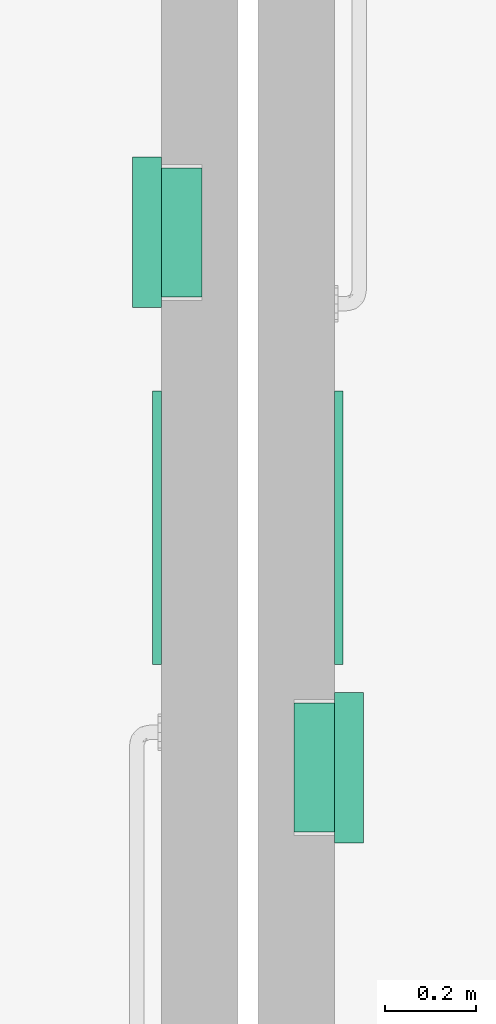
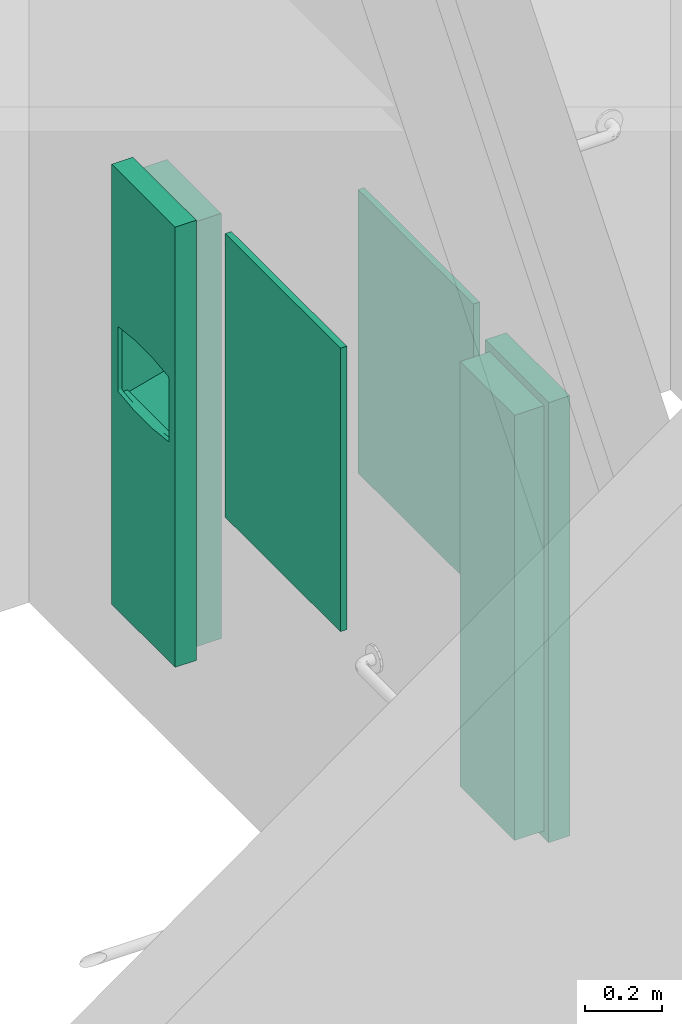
# One storey, part 36 of 45: 4 flow terminals.
"""IFC2X3 building model written with IfcOpenShell, lengths in metres."""

from ifc_helpers import new_model, entity, si_unit, converted_unit, frame, origin, origin_2d_with_axis, place, context, project, spatial, rectangle, extrude, face_set, surface_model, source, transform, mapped, type_object, type_shapes, element, save


model = new_model("IFC2X3")

# Units and contexts
model_context = context("Model", 3, precision=1e-09, world=origin())
plan_context = context("Plan", 3, precision=1e-09, world=origin())
ifc_project = project(units=[si_unit("LENGTHUNIT", "METRE"), si_unit("AREAUNIT", "SQUARE_METRE"), si_unit("VOLUMEUNIT", "CUBIC_METRE"), converted_unit("PLANEANGLEUNIT", "DEGREE", entity("IfcRatioMeasure", 0.01745329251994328), si_unit("PLANEANGLEUNIT", "RADIAN"), dimensions=[0, 0, 0, 0, 0, 0, 0]), si_unit("TIMEUNIT", "SECOND")], contexts=[model_context, plan_context])

# Site, building, storey, space
site_placement = place(None, origin())
site = spatial("IfcSite", under=ifc_project, at=site_placement, Name="Default", CompositionType="ELEMENT")
building_placement = place(site_placement, origin())
building = spatial("IfcBuilding", under=site, at=building_placement, CompositionType="ELEMENT")
storey_placement = place(building_placement, frame((0.0, 0.0, 4.570000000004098)))
storey = spatial("IfcBuildingStorey", under=building, at=storey_placement, Name="Second Floor", CompositionType="ELEMENT", Elevation=4.570000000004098)
space_1_placement = place(storey_placement, origin())
space_1 = spatial("IfcSpace", under=storey, at=space_1_placement, Name="2B5", CompositionType="ELEMENT", InteriorOrExteriorSpace="INTERNAL")

# Flow terminal
sanitary_terminal_type_1 = type_object("IfcSanitaryTerminalType", Name="Semi-Recessed", PredefinedType="NOTDEFINED")
shared_shape_1 = source(origin(), model_context, "Body", "SurfaceModel", [
    surface_model("IfcFaceBasedSurfaceModel", [(0.3047999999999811, 1.371600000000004, 0.006350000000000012), (0.02539999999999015, 1.371600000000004, 0.006350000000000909), (0.02539999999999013, 0.02540000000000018, 0.006350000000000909), (0.3047999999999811, 0.02540000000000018, 0.006350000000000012), (0.3047999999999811, 1.371600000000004, 0.0), (0.02539999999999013, 1.371600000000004, 0.0), (0.02539999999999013, 0.02540000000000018, 0.0), (0.3047999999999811, 0.02540000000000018, 0.0), (0.3047999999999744, 0.8683625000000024, 0.0314087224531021), (0.304799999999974, 0.8683625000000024, 0.0), (0.304799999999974, 1.371600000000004, 0.0), (0.3047999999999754, 1.371600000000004, 0.1396999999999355), (0.3047999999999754, 0.9274310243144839, 0.139699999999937), (0.3047999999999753, 0.9028355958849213, 0.1191121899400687), (0.304799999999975, 0.8840898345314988, 0.09308548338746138), (0.3047999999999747, 0.8723562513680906, 0.06323391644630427), (0.02539999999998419, 0.8683625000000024, 0.03140872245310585), (0.02539999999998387, 0.8683625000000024, 0.0), (0.02539999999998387, 1.371600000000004, 0.0), (0.02539999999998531, 1.371600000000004, 0.1396999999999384), (0.02539999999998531, 0.9274310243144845, 0.1396999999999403), (0.02539999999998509, 0.9028355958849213, 0.1191121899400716), (0.02539999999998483, 0.8840898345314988, 0.09308548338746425), (0.02539999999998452, 0.8723562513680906, 0.06323391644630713), (0.1650999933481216, 0.8971245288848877, 0.1125374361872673), (0.244423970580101, 0.8850007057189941, 0.0947267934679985), (0.3048000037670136, 0.8934627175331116, 0.1060988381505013), (0.225727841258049, 0.8897196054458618, 0.1024402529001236), (0.1240624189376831, 0.8936511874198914, 0.1080563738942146), (0.1443802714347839, 0.89626145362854, 0.1114614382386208), (0.02539999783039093, 0.8934627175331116, 0.1060988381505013), (0.2975995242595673, 0.8728225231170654, 0.06500939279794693), (0.2961554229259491, 0.8724397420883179, 0.06352298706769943), (0.08576729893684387, 0.8849983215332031, 0.09472260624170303), (0.05923719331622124, 0.8781034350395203, 0.0805450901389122), (0.06810294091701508, 0.8800443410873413, 0.08500713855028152), (0.02539999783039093, 0.8811564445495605, 0.08562259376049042), (0.03954862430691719, 0.8766331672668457, 0.07681932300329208), (0.04958875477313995, 0.8769928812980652, 0.07776296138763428), (0.02539999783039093, 0.8782230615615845, 0.07815969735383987), (0.03264534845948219, 0.875198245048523, 0.07281118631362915), (0.02539999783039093, 0.8767563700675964, 0.0744282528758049), (0.02539999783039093, 0.87602299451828, 0.07256253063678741), (0.2946777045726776, 0.8762261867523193, 0.07572414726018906), (0.3048000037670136, 0.8767563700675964, 0.0744282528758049), (0.3048000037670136, 0.8774896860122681, 0.07629397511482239), (0.2906513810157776, 0.8717893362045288, 0.0609215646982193), (0.3048000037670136, 0.871357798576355, 0.05527761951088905), (0.3048000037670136, 0.8718570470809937, 0.05925576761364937), (0.02539999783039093, 0.874556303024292, 0.06883108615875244), (0.03170676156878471, 0.8735430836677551, 0.0675705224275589), (0.03171554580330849, 0.8739543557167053, 0.06892137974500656), (0.104461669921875, 0.889717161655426, 0.1024366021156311), (0.02539999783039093, 0.8752896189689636, 0.07069680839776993), (0.03172433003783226, 0.8743656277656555, 0.07027223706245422), (0.03218483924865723, 0.8747819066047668, 0.07154171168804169), (0.185808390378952, 0.8962624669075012, 0.1114626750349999), (0.3048000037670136, 0.8703593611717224, 0.04732131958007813), (0.2280749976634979, 0.8709259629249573, 0.05697767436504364), (0.2061262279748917, 0.8936530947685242, 0.1080589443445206), (0.3048000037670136, 0.8752896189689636, 0.07069680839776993), (0.297547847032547, 0.8752022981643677, 0.07282306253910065), (0.2980738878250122, 0.8745774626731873, 0.0708826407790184), (0.2985999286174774, 0.8739525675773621, 0.06894221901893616), (0.3048000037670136, 0.874556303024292, 0.06883108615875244), (0.2709419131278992, 0.8781068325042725, 0.08055329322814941), (0.3048000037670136, 0.8811564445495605, 0.08562259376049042), (0.2620970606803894, 0.8800443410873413, 0.08500713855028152), (0.2805894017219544, 0.8769944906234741, 0.07776710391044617), (0.3048000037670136, 0.8782230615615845, 0.07815969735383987), (0.03435983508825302, 0.8722586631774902, 0.06284872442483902), (0.02539999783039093, 0.872106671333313, 0.06124484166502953), (0.0367727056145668, 0.8719081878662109, 0.06142202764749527), (0.2906513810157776, 0.8766331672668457, 0.07681932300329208), (0.02539999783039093, 0.8718570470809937, 0.05925576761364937), (0.3048000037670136, 0.8738229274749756, 0.06696536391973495), (0.2980997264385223, 0.8733875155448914, 0.06697580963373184), (0.3048000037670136, 0.872106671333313, 0.06124484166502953), (0.2947112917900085, 0.8720570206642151, 0.06203658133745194), (0.02539999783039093, 0.8738229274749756, 0.06696536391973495), (0.3048000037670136, 0.873089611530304, 0.06509964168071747), (0.02539999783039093, 0.8774896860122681, 0.07629397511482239), (0.03438528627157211, 0.8759323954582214, 0.07491400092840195), (0.03677724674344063, 0.8764464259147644, 0.07632055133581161), (0.03261014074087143, 0.8728178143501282, 0.0649920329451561), (0.02539999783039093, 0.8703593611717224, 0.04732131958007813), (0.1650999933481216, 0.8683624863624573, 0.03140872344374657), (0.03954862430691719, 0.8717893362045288, 0.0609215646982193), (0.1021250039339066, 0.8709259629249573, 0.05697767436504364), (0.02539999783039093, 0.871357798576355, 0.05527761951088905), (0.02539999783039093, 0.873089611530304, 0.06509964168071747), (0.2961127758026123, 0.8757142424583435, 0.07427360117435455), (0.3048000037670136, 0.87602299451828, 0.07256253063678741), (0.1650999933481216, 0.8701865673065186, 0.05300865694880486), (0.03954862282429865, 0.9617593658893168, 0.06092156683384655), (0.1650999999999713, 0.9617593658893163, 0.05300865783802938), (0.2906513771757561, 0.9617593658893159, 0.06092156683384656), (0.2927086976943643, 0.9617593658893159, 0.06119241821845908), (0.2946258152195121, 0.9617593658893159, 0.06198651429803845), (0.2962720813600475, 0.9617593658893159, 0.06324973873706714), (0.2975353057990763, 0.9617593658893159, 0.06489600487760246), (0.2983294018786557, 0.9617593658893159, 0.06681312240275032), (0.2986002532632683, 0.9617593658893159, 0.06887044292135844), (0.2983294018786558, 0.9617593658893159, 0.07092776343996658), (0.2975353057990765, 0.9617593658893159, 0.0728448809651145), (0.2962720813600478, 0.9617593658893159, 0.07449114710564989), (0.2946258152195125, 0.9617593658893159, 0.07575437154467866), (0.2927086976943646, 0.9617593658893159, 0.07654846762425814), (0.2906513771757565, 0.9617593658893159, 0.07681931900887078), (0.2806776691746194, 0.9617593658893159, 0.07775040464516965), (0.2710486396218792, 0.9617593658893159, 0.0805114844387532), (0.2620970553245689, 0.9617593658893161, 0.0850071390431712), (0.2316919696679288, 0.9617593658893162, 0.1002429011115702), (0.1989754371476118, 0.9617593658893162, 0.1095287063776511), (0.1651000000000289, 0.9617593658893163, 0.1125374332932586), (0.1312245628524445, 0.9617593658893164, 0.109528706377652), (0.09850803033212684, 0.9617593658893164, 0.1002429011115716), (0.06810294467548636, 0.9617593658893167, 0.08500713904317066), (0.05915136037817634, 0.9617593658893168, 0.08051148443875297), (0.04952233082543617, 0.9617593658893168, 0.07775040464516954), (0.03954862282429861, 0.9617593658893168, 0.07681931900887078), (0.03749130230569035, 0.9617593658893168, 0.0765484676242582), (0.03557418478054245, 0.9617593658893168, 0.07575437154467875), (0.03392791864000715, 0.9617593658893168, 0.07449114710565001), (0.03266469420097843, 0.9617593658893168, 0.07284488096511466), (0.03187059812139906, 0.9617593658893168, 0.07092776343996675), (0.03159974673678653, 0.9617593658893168, 0.06887044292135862), (0.03187059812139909, 0.9617593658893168, 0.06681312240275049), (0.03266469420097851, 0.9617593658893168, 0.0648960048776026), (0.03392791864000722, 0.9617593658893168, 0.06324973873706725), (0.03557418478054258, 0.9617593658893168, 0.06198651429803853), (0.03749130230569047, 0.9617593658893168, 0.06119241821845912), (0.3302000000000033, 1.397000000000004, 0.1523999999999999), (0.0, 1.397000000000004, 0.152400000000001), (0.0, 0.0, 0.152400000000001), (0.3302000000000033, 0.0, 0.1523999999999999), (0.03175000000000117, 0.7016793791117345, 0.1524000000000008), (0.03175000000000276, 0.8960819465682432, 0.1524000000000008), (0.03192255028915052, 0.8975521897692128, 0.1524000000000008), (0.03243082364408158, 0.8989425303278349, 0.1524000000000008), (0.03324719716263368, 0.9001774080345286, 0.1524000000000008), (0.03432730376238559, 0.9011897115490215, 0.1524000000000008), (0.03561244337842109, 0.9019244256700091, 0.1524000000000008), (0.03703277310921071, 0.9023416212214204, 0.1524000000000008), (0.1222300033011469, 0.9119737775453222, 0.1524000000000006), (0.2079699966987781, 0.911973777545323, 0.1524000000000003), (0.2931672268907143, 0.902341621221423, 0.1524), (0.2945875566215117, 0.9019244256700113, 0.1524), (0.2958726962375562, 0.9011897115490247, 0.1524), (0.2969528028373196, 0.9001774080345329, 0.1524), (0.297769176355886, 0.8989425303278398, 0.1524), (0.2982774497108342, 0.8975521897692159, 0.1524), (0.2984500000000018, 0.8960819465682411, 0.1524), (0.2984500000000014, 0.7016793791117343, 0.1524), (0.2982774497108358, 0.7002091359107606, 0.1524), (0.2977691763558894, 0.6988187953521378, 0.1524), (0.2969528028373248, 0.697583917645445, 0.1524), (0.2958726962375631, 0.6965716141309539, 0.1524), (0.29458755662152, 0.6958369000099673, 0.1524), (0.2931672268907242, 0.6954197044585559, 0.1524), (0.2079699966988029, 0.6857875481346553, 0.1524000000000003), (0.1222300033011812, 0.6857875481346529, 0.1524000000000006), (0.03703277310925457, 0.6954197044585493, 0.1524000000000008), (0.03561244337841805, 0.6958369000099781, 0.1524000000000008), (0.0343273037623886, 0.6965716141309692, 0.1524000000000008), (0.03324719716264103, 0.6975839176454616, 0.1524000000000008), (0.03243082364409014, 0.698818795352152, 0.1524000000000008), (0.03192255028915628, 0.7002091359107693, 0.1524000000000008), (0.3063874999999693, 1.373187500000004, 0.0), (0.02381249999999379, 1.373187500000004, 0.0), (0.02381249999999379, 0.02381250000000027, 0.0), (0.3063874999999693, 0.02381250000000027, 0.0), (0.3047999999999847, 1.371600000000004, 0.0), (0.3047999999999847, 0.02540000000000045, 0.0), (0.02539999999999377, 0.02540000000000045, 0.0), (0.02539999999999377, 1.371600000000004, 0.0), (0.304799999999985, 1.371600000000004, 0.08889999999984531), (0.3047999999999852, 1.371600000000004, 0.1396999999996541), (0.3047999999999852, 0.02540000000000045, 0.1396999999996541), (0.304799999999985, 0.02540000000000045, 0.08889999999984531), (0.02539999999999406, 0.02540000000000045, 0.08889999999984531), (0.02539999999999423, 0.02540000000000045, 0.139699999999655), (0.02539999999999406, 1.371600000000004, 0.08889999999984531), (0.02539999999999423, 1.371600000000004, 0.139699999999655), (0.02381249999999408, 1.373187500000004, 0.08889999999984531), (0.3063874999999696, 1.373187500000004, 0.08889999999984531), (0.02381249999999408, 0.02381250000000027, 0.08889999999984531), (0.3063874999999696, 0.02381250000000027, 0.08889999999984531), (0.3302000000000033, 1.397000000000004, 0.08889999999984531), (0.0, 1.397000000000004, 0.08889999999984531), (0.0, 0.0, 0.08889999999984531), (0.3302000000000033, 0.0, 0.08889999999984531), (0.3302000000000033, 1.397000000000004, 0.1396999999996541), (0.0, 1.397000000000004, 0.1396999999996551), (0.0, 0.0, 0.1396999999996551), (0.3302000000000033, 0.0, 0.1396999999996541), (0.0317500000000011, 0.7016793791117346, 0.139699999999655), (0.03175000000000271, 0.8960819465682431, 0.139699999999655), (0.03192255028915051, 0.8975521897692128, 0.139699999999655), (0.03243082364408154, 0.8989425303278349, 0.139699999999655), (0.03324719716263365, 0.9001774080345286, 0.139699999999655), (0.03432730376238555, 0.9011897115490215, 0.139699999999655), (0.03561244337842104, 0.9019244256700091, 0.139699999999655), (0.03703277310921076, 0.9023416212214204, 0.139699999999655), (0.1222300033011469, 0.9119737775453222, 0.1396999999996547), (0.207969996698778, 0.911973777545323, 0.1396999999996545), (0.2931672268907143, 0.902341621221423, 0.1396999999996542), (0.2945875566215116, 0.9019244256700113, 0.1396999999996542), (0.2958726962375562, 0.9011897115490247, 0.1396999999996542), (0.2969528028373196, 0.9001774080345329, 0.1396999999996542), (0.2977691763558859, 0.8989425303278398, 0.1396999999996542), (0.2982774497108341, 0.8975521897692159, 0.1396999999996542), (0.2984500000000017, 0.8960819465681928, 0.1396999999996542), (0.2984500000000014, 0.7016793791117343, 0.1396999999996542), (0.2982774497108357, 0.7002091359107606, 0.1396999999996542), (0.2977691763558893, 0.6988187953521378, 0.1396999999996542), (0.2969528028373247, 0.697583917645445, 0.1396999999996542), (0.295872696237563, 0.6965716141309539, 0.1396999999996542), (0.29458755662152, 0.6958369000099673, 0.1396999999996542), (0.2931672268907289, 0.6954197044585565, 0.1396999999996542), (0.2079699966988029, 0.6857875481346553, 0.1396999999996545), (0.1222300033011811, 0.6857875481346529, 0.1396999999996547), (0.0370327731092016, 0.6954197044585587, 0.139699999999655), (0.03561244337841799, 0.6958369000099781, 0.139699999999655), (0.03432730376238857, 0.6965716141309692, 0.139699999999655), (0.03324719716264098, 0.6975839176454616, 0.139699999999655), (0.03243082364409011, 0.698818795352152, 0.139699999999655), (0.03192255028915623, 0.7002091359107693, 0.139699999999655), (0.02698749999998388, 0.6774923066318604, 0.1206361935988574), (0.02698749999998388, 0.6858000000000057, 0.1206361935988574), (0.02698749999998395, 0.6858000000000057, 0.1397000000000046), (0.02698749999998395, 0.0253999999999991, 0.1397000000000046), (0.02698749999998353, 0.0253999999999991, 0.007937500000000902), (0.02698749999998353, 0.7076898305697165, 0.007937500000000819), (0.3032124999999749, 0.6774923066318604, 0.1206361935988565), (0.3032124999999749, 0.6858000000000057, 0.1206361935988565), (0.3032124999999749, 0.6858000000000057, 0.1397000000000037), (0.3032124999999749, 0.0253999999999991, 0.1397000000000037), (0.3032124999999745, 0.0253999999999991, 0.007937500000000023), (0.3032124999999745, 0.7076898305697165, 0.007937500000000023)], [face_set([[[0, 1, 2, 3]], [[4, 5, 6, 7]], [[1, 0, 4, 5]], [[2, 6, 5, 1]], [[3, 7, 6, 2]], [[0, 3, 7, 4]]]), face_set([[[8, 9, 10, 11, 12, 13, 14, 15]], [[16, 17, 18, 19, 20, 21, 22, 23]], [[9, 8, 16, 17]], [[10, 18, 17, 9]], [[11, 19, 18, 10]], [[12, 11, 19, 20]], [[24, 20, 21]], [[25, 26, 27]], [[28, 29, 21]], [[28, 21, 30]], [[15, 31, 32]], [[22, 33, 30]], [[24, 21, 29]], [[34, 35, 36]], [[37, 38, 39]], [[40, 41, 42]], [[39, 38, 34]], [[22, 35, 33]], [[39, 34, 36]], [[43, 44, 45]], [[46, 47, 48]], [[49, 50, 51]], [[33, 52, 30]], [[53, 54, 55]], [[24, 56, 13]], [[57, 47, 58]], [[24, 13, 12]], [[13, 56, 59]], [[59, 27, 26]], [[60, 61, 62]], [[62, 63, 64]], [[24, 12, 20]], [[55, 42, 53]], [[65, 66, 67]], [[25, 67, 14]], [[25, 14, 26]], [[65, 68, 69]], [[66, 65, 69]], [[70, 71, 72]], [[69, 68, 73]], [[72, 71, 74]], [[26, 13, 59]], [[54, 53, 49]], [[64, 60, 62]], [[75, 63, 76]], [[46, 77, 78]], [[79, 50, 49]], [[80, 76, 31]], [[39, 81, 37]], [[41, 82, 81]], [[49, 51, 54]], [[81, 82, 83]], [[40, 82, 41]], [[70, 84, 23]], [[84, 50, 79]], [[85, 16, 86]], [[28, 30, 52]], [[70, 23, 71]], [[87, 72, 74]], [[85, 88, 89]], [[87, 89, 88]], [[74, 89, 87]], [[84, 90, 23]], [[58, 47, 46]], [[35, 22, 36]], [[63, 75, 64]], [[91, 61, 92]], [[45, 73, 43]], [[80, 75, 76]], [[61, 60, 92]], [[15, 32, 78]], [[45, 69, 73]], [[92, 44, 91]], [[66, 14, 67]], [[84, 79, 90]], [[85, 93, 88]], [[86, 57, 93]], [[31, 15, 80]], [[77, 15, 78]], [[42, 55, 40]], [[58, 93, 57]], [[77, 46, 48]], [[8, 57, 86]], [[37, 81, 83]], [[44, 43, 91]], [[85, 86, 93]], [[94, 95, 96, 97, 98, 99, 100, 101, 102, 103, 104, 105, 106, 107, 108, 109, 110, 111, 112, 113, 114, 115, 116, 117, 118, 119, 120, 121, 122, 123, 124, 125, 126, 127, 128, 129, 130, 131]], [[95, 94, 87, 88, 93]], [[96, 95, 93, 58, 46]], [[46, 96, 97]], [[78, 98, 99]], [[97, 98, 78]], [[99, 100, 31]], [[46, 97, 78]], [[63, 31, 101]], [[31, 78, 99]], [[63, 101, 102]], [[101, 31, 100]], [[61, 104, 105]], [[43, 106, 107]], [[105, 106, 43]], [[73, 107, 108]], [[63, 103, 61]], [[103, 63, 102]], [[61, 103, 104]], [[61, 105, 43]], [[107, 73, 43]], [[108, 68, 73]], [[68, 108, 109]], [[109, 65, 68]], [[110, 67, 65]], [[67, 110, 111]], [[109, 110, 65]], [[111, 112, 25]], [[25, 67, 111]], [[27, 25, 112]], [[112, 59, 27]], [[113, 114, 56]], [[56, 59, 113]], [[24, 56, 114]], [[113, 59, 112]], [[114, 115, 29]], [[29, 24, 114]], [[28, 29, 115]], [[115, 116, 28]], [[116, 117, 33]], [[33, 52, 116]], [[35, 33, 117]], [[116, 52, 28]], [[118, 34, 35]], [[35, 117, 118]], [[118, 119, 34]], [[120, 37, 38]], [[38, 119, 120]], [[34, 119, 38]], [[37, 120, 121]], [[82, 122, 123]], [[121, 122, 83]], [[123, 124, 40]], [[37, 121, 83]], [[83, 122, 82]], [[40, 125, 54]], [[40, 82, 123]], [[54, 125, 126]], [[40, 124, 125]], [[84, 127, 128]], [[129, 84, 128]], [[72, 130, 131]], [[129, 130, 70]], [[87, 131, 94]], [[127, 50, 126]], [[127, 84, 50]], [[126, 50, 54]], [[70, 84, 129]], [[130, 72, 70]], [[131, 87, 72]]]), face_set([[[132, 133, 134, 135], [136, 137, 138, 139, 140, 141, 142, 143, 144, 145, 146, 147, 148, 149, 150, 151, 152, 153, 154, 155, 156, 157, 158, 159, 160, 161, 162, 163, 164, 165, 166, 167]], [[168, 169, 170, 171], [172, 173, 174, 175]], [[172, 176, 177, 178, 179, 173]], [[173, 174, 180, 181, 178, 179]], [[174, 175, 182, 183, 181, 180]], [[175, 182, 183, 177, 176, 172]], [[168, 169, 184, 185]], [[169, 184, 186, 170]], [[170, 186, 187, 171]], [[171, 168, 185, 187]], [[188, 189, 190, 191], [185, 187, 186, 184]], [[133, 132, 192, 188, 189, 193]], [[134, 133, 193, 189, 190, 194]], [[135, 134, 194, 190, 191, 195]], [[132, 135, 195, 191, 188, 192]], [[177, 183, 181, 178], [196, 197, 198, 199, 200, 201, 202, 203, 204, 205, 206, 207, 208, 209, 210, 211, 212, 213, 214, 215, 216, 217, 218, 219, 220, 221, 222, 223, 224, 225, 226, 227]], [[137, 136, 196, 197]], [[198, 197, 137, 138]], [[199, 198, 138, 139]], [[139, 140, 200, 199]], [[202, 201, 141, 142]], [[203, 202, 142, 143]], [[140, 141, 201, 200]], [[203, 143, 144, 204]], [[145, 205, 204, 144]], [[205, 145, 146, 206]], [[207, 206, 146, 147]], [[208, 207, 147, 148]], [[148, 149, 209, 208]], [[212, 211, 151, 152]], [[211, 210, 150, 151]], [[149, 150, 210, 209]], [[153, 213, 212, 152]], [[214, 213, 153, 154]], [[215, 214, 154, 155]], [[155, 156, 216, 215]], [[218, 217, 157, 158]], [[219, 218, 158, 159]], [[156, 157, 217, 216]], [[219, 159, 160, 220]], [[161, 221, 220, 160]], [[221, 161, 162, 222]], [[223, 222, 162, 163]], [[224, 223, 163, 164]], [[164, 165, 225, 224]], [[227, 226, 166, 167]], [[196, 227, 167, 136]], [[165, 166, 226, 225]]]), face_set([[[228, 229, 230, 231, 232, 233]], [[234, 235, 236, 237, 238, 239]], [[233, 228, 234, 239]], [[232, 238, 239, 233]], [[231, 237, 238, 232]], [[230, 231, 237, 236]], [[229, 230, 236, 235]], [[228, 234, 235, 229]]])]),
])
type_shapes(sanitary_terminal_type_1, [shared_shape_1])
flow_terminal_1_placement = place(space_1_placement, frame((-6.958900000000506, 20.80683871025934, 0.3428999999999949), z_axis=(1.0, 0.0, 0.0), x_axis=(0.0, 1.0, 0.0)))
element("IfcFlowTerminal", 1, at=flow_terminal_1_placement, inside=space_1, type_object=sanitary_terminal_type_1, Name="M_Towel Dispensers - receptical:Semi-Recessed:Semi-Recessed", ObjectType="Semi-Recessed", context=model_context, shape_type="MappedRepresentation", body=[
    mapped(shared_shape_1, transform((0.0, 0.0, 0.0), scale=1.0)),
])

# Space
space_2_placement = place(storey_placement, origin())
space_2 = spatial("IfcSpace", under=storey, at=space_2_placement, Name="2B6", CompositionType="ELEMENT", InteriorOrExteriorSpace="INTERNAL")

# Flow terminals
flow_terminal_2_placement = place(space_2_placement, frame((-7.16110000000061, 22.31123871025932, 0.3428999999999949), z_axis=(-1.0, 0.0, 0.0), x_axis=(0.0, -1.0, 0.0)))
element("IfcFlowTerminal", 2, at=flow_terminal_2_placement, inside=space_2, type_object=sanitary_terminal_type_1, Name="M_Towel Dispensers - receptical:Semi-Recessed:Semi-Recessed", ObjectType="Semi-Recessed", context=model_context, shape_type="MappedRepresentation", body=[
    mapped(shared_shape_1, transform((0.0, 0.0, 0.0), scale=1.0)),
])
sanitary_terminal_type_2 = type_object("IfcSanitaryTerminalType", Name="Mirror 600mm x 900mm", PredefinedType="NOTDEFINED")
shared_shape_2 = source(origin(), model_context, "Body", "SweptSolid", [
    extrude(rectangle(XDim=0.01905, YDim=0.5999999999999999, at=origin_2d_with_axis()), frame((0.02447030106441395, 0.093525, 1.0), z_axis=(0.0, 0.0, 1.0), x_axis=(0.0, -1.0, 0.0)), (0.0, 0.0, 1.0), 0.8999999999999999),
])
type_shapes(sanitary_terminal_type_2, [shared_shape_2])
flow_terminal_3_placement = place(space_2_placement, frame((-7.16600000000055, 21.47396840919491, -0.08499999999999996), z_axis=(0.0, 0.0, 1.0), x_axis=(0.0, 1.0, 0.0)))
element("IfcFlowTerminal", 3, at=flow_terminal_3_placement, inside=space_2, type_object=sanitary_terminal_type_2, Name="M_Mirror:Mirror 600mm x 900mm:Mirror 600mm x 900mm", ObjectType="Mirror 600mm x 900mm", context=model_context, shape_type="MappedRepresentation", body=[
    mapped(shared_shape_2, transform((0.0, 0.0, 0.0), scale=1.0)),
])
flow_terminal_4_placement = place(space_1_placement, frame((-6.954000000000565, 21.52290901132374, -0.08499999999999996), z_axis=(0.0, 0.0, 1.0), x_axis=(0.0, -1.0, 0.0)))
element("IfcFlowTerminal", 4, at=flow_terminal_4_placement, inside=space_1, type_object=sanitary_terminal_type_2, Name="M_Mirror:Mirror 600mm x 900mm:Mirror 600mm x 900mm", ObjectType="Mirror 600mm x 900mm", context=model_context, shape_type="MappedRepresentation", body=[
    mapped(shared_shape_2, transform((0.0, 0.0, 0.0), scale=1.0)),
])

save(model, "model.ifc")
